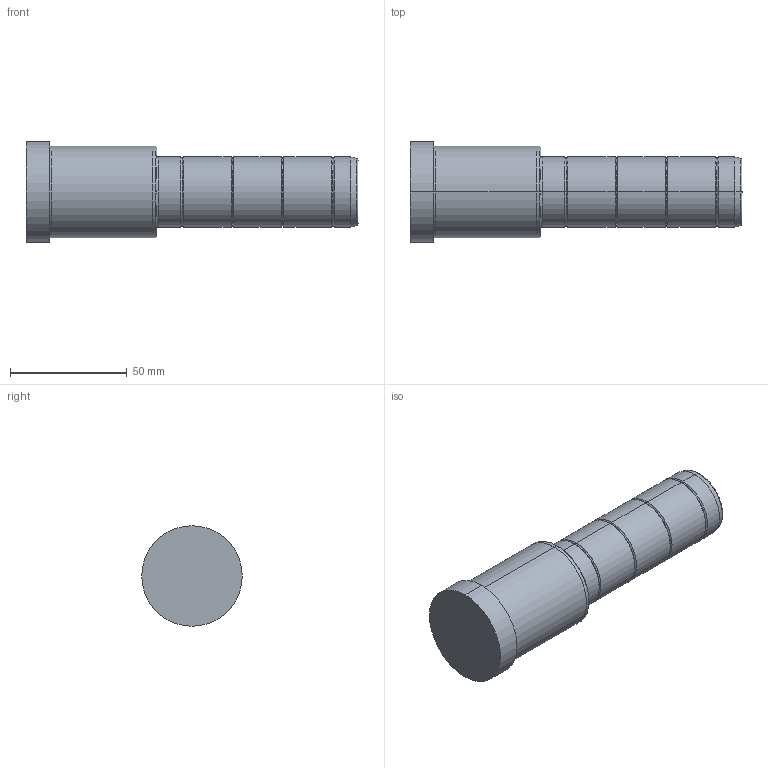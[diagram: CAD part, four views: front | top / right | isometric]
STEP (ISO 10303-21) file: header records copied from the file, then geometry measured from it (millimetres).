
FILE_DESCRIPTION( ( 'STEP AP203' ), '1' );
FILE_NAME( 'C:/Projects/D02 - 30x56x86.step', '2002-12-31T22:49:09', ( ' ' ), ( ' ' ), 'XStep 1.0', ' ', ' ' );
FILE_SCHEMA( ( 'CONFIG_CONTROL_DESIGN' ) );
Length unit declared in the file: metre
Products named in the file (1): 1
Bounding box: 142 x 43 x 43 mm (x, y, z)
Volume: 130038.1 mm3; surface area: 18056 mm2
Topology: 1 solids, 1 shells, 48 faces, 94 edges, 52 vertices
Faces by surface type: bspline 26, revolution 22
Entity records: 1523 total; most frequent: CARTESIAN_POINT 617, ORIENTED_EDGE 188, DIRECTION 150, EDGE_CURVE 94, AXIS2_PLACEMENT_3D 53, EDGE_LOOP 52, VERTEX_POINT 52, CIRCLE 52
